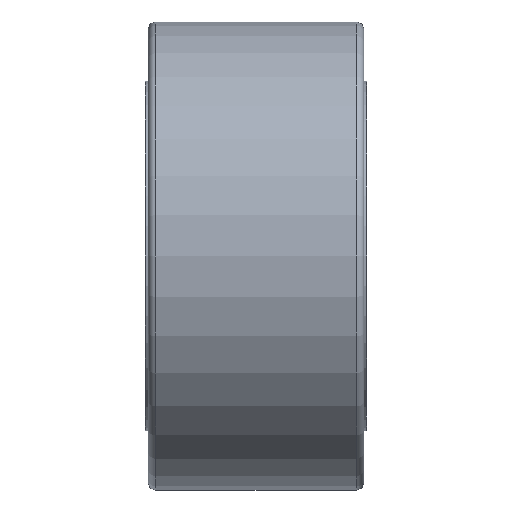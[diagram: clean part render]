
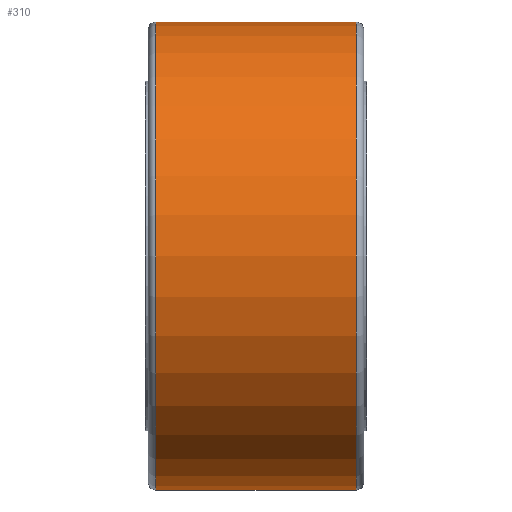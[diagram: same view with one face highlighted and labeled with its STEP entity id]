
A CAD part, left-side view. The second image highlights one B-rep face of the part: STEP entity #310.
In plain terms, the highlighted cylindrical face has radius 90 mm (diameter 180 mm), a partial arc.
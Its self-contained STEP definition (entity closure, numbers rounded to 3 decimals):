
#20 = CIRCLE ( 'NONE', #270, 90. ) ;
#43 = FACE_OUTER_BOUND ( 'NONE', #291, .T. ) ;
#46 = CARTESIAN_POINT ( 'NONE',  ( 0., 83., 90. ) ) ;
#55 = CARTESIAN_POINT ( 'NONE',  ( 0., 3., -90. ) ) ;
#64 = DIRECTION ( 'NONE',  ( 0., -1., 0. ) ) ;
#65 = EDGE_CURVE ( 'NONE', #519, #360, #237, .T. ) ;
#81 = CIRCLE ( 'NONE', #447, 90. ) ;
#107 = DIRECTION ( 'NONE',  ( 0., -1., 0. ) ) ;
#135 = CARTESIAN_POINT ( 'NONE',  ( 0., 80., 90. ) ) ;
#137 = AXIS2_PLACEMENT_3D ( 'NONE', #315, #348, #391 ) ;
#162 = CYLINDRICAL_SURFACE ( 'NONE', #137, 90. ) ;
#175 = DIRECTION ( 'NONE',  ( 0., 1., 0. ) ) ;
#181 = CARTESIAN_POINT ( 'NONE',  ( 0., 80., -90. ) ) ;
#199 = EDGE_CURVE ( 'NONE', #464, #243, #506, .T. ) ;
#237 = LINE ( 'NONE', #46, #335 ) ;
#243 = VERTEX_POINT ( 'NONE', #55 ) ;
#270 = AXIS2_PLACEMENT_3D ( 'NONE', #574, #107, #531 ) ;
#289 = CARTESIAN_POINT ( 'NONE',  ( 0., 3., 0. ) ) ;
#291 = EDGE_LOOP ( 'NONE', ( #349, #541, #443, #535 ) ) ;
#310 = ADVANCED_FACE ( 'NONE', ( #43 ), #162, .T. ) ;
#315 = CARTESIAN_POINT ( 'NONE',  ( 0., 83., 0. ) ) ;
#335 = VECTOR ( 'NONE', #64, 1000. ) ;
#348 = DIRECTION ( 'NONE',  ( 0., -1., 0. ) ) ;
#349 = ORIENTED_EDGE ( 'NONE', *, *, #65, .F. ) ;
#360 = VERTEX_POINT ( 'NONE', #529 ) ;
#367 = EDGE_CURVE ( 'NONE', #519, #464, #20, .T. ) ;
#391 = DIRECTION ( 'NONE',  ( 0., 0., -1. ) ) ;
#443 = ORIENTED_EDGE ( 'NONE', *, *, #199, .T. ) ;
#447 = AXIS2_PLACEMENT_3D ( 'NONE', #289, #175, #502 ) ;
#464 = VERTEX_POINT ( 'NONE', #181 ) ;
#480 = VECTOR ( 'NONE', #520, 1000. ) ;
#494 = CARTESIAN_POINT ( 'NONE',  ( 0., 83., -90. ) ) ;
#502 = DIRECTION ( 'NONE',  ( 0., 0., 1. ) ) ;
#506 = LINE ( 'NONE', #494, #480 ) ;
#515 = EDGE_CURVE ( 'NONE', #243, #360, #81, .T. ) ;
#519 = VERTEX_POINT ( 'NONE', #135 ) ;
#520 = DIRECTION ( 'NONE',  ( 0., -1., 0. ) ) ;
#529 = CARTESIAN_POINT ( 'NONE',  ( 0., 3., 90. ) ) ;
#531 = DIRECTION ( 'NONE',  ( 0., 0., 1. ) ) ;
#535 = ORIENTED_EDGE ( 'NONE', *, *, #515, .T. ) ;
#541 = ORIENTED_EDGE ( 'NONE', *, *, #367, .T. ) ;
#574 = CARTESIAN_POINT ( 'NONE',  ( 0., 80., 0. ) ) ;
